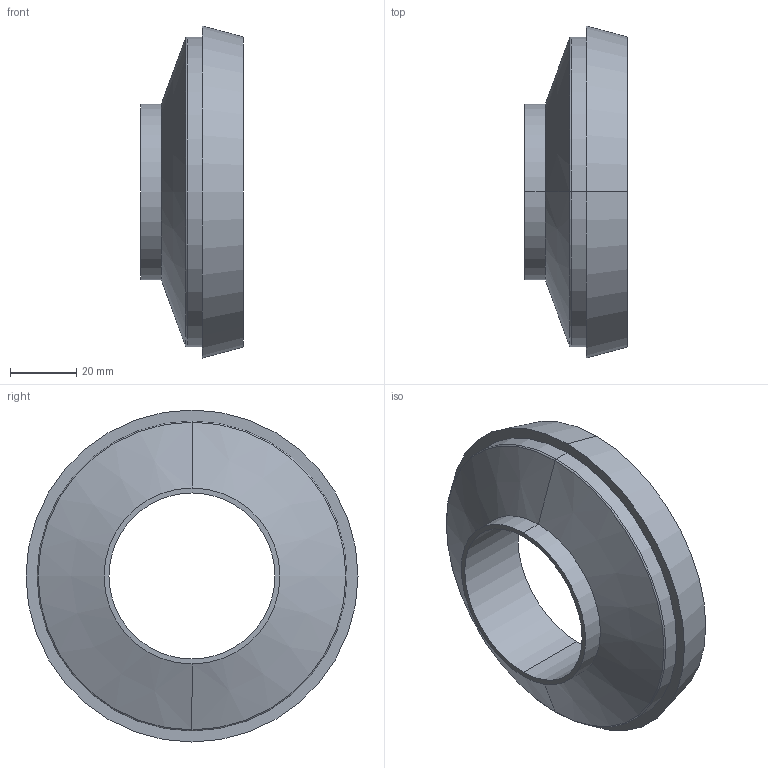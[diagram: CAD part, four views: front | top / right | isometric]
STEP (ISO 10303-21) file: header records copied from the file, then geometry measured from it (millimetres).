
FILE_DESCRIPTION (( 'STEP AP203' ), '1' );
FILE_NAME ('3D-M2024P_80-50_174211165.STEP', '2024-09-06T10:01:24', ( '' ), ( '' ), 'SwSTEP 2.0', 'SolidWorks 2024', '' );
FILE_SCHEMA (( 'CONFIG_CONTROL_DESIGN' ));
Length unit declared in the file: millimetre
Products named in the file (1): 3D-M2024P_80-50_174211165
Bounding box: 31 x 100 x 100 mm (x, y, z)
Volume: 97472 mm3; surface area: 21438.4 mm2
Topology: 1 solids, 1 shells, 17 faces, 34 edges, 20 vertices
Faces by surface type: cone 6, cylinder 6, plane 3, torus 2
Entity records: 527 total; most frequent: DIRECTION 92, CARTESIAN_POINT 72, ORIENTED_EDGE 68, AXIS2_PLACEMENT_3D 40, EDGE_CURVE 34, CIRCLE 22, VERTEX_POINT 20, EDGE_LOOP 20
